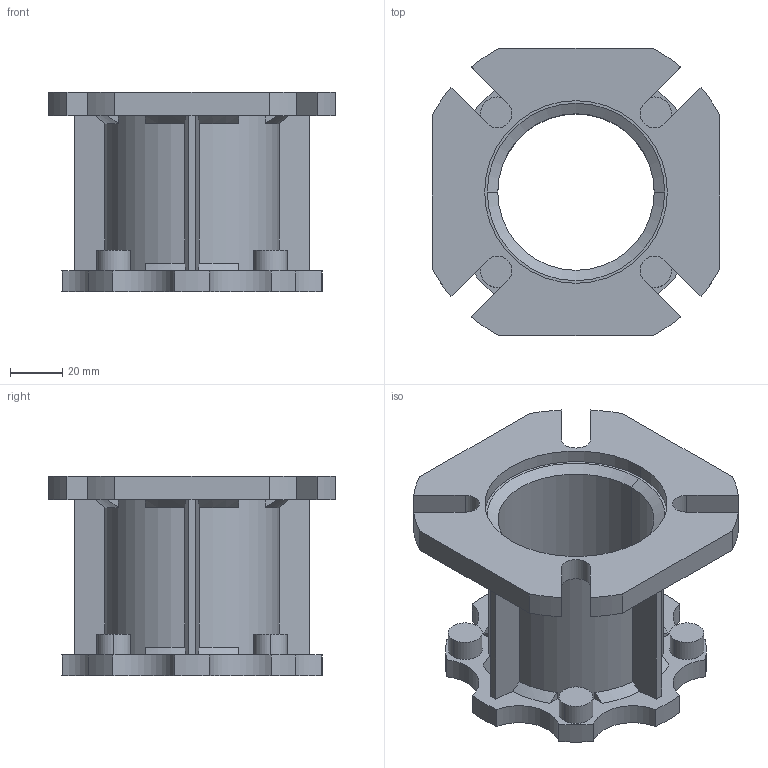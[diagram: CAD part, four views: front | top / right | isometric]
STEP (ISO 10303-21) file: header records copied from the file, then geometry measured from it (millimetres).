
FILE_DESCRIPTION(/* description */ (''),/* implementation_level */ '2;1');
FILE_NAME(/* name */ '1_FLANGIA (CAMPANA) LATERALE FB NMRV050',/* time_stamp */ '2025-10-09T14:36:20+02:00',/* author */ (''),/* organization */ (''),/* preprocessor_version */ 'ST-DEVELOPER v19.2',/* originating_system */ 'Rhino 8.23',/* authorisation */ '');
FILE_SCHEMA (('CONFIG_CONTROL_DESIGN'));
Length unit declared in the file: millimetre
Products named in the file (2): Document; FU 50FB
Bounding box: 110 x 110 x 76.5 mm (x, y, z)
Volume: 142783.5 mm3; surface area: 60475.6 mm2
Topology: 1 solids, 1 shells, 116 faces, 314 edges, 208 vertices
Faces by surface type: plane 50, cylinder 46, bspline 20
Entity records: 5201 total; most frequent: CARTESIAN_POINT 1456, ORIENTED_EDGE 628, DIRECTION 360, EDGE_CURVE 314, AXIS2_PLACEMENT_3D 228, VERTEX_POINT 208, B_SPLINE_CURVE_WITH_KNOTS 186, TRIMMED_CURVE 128
